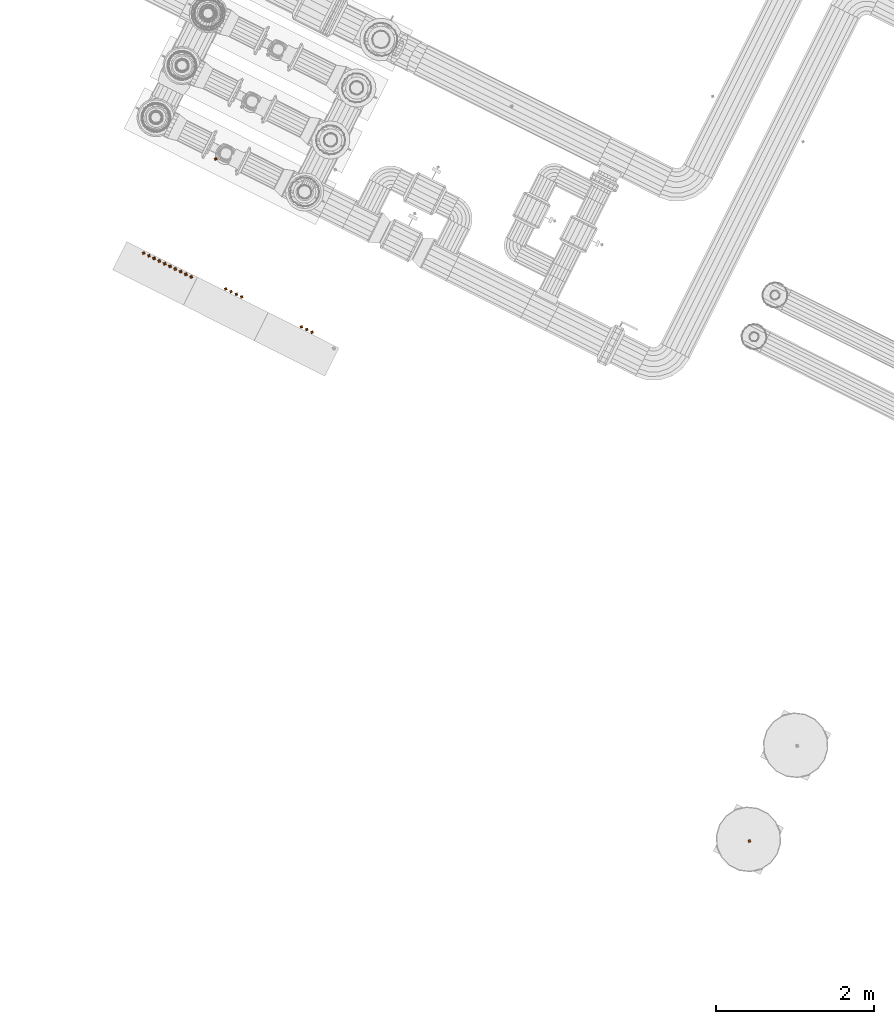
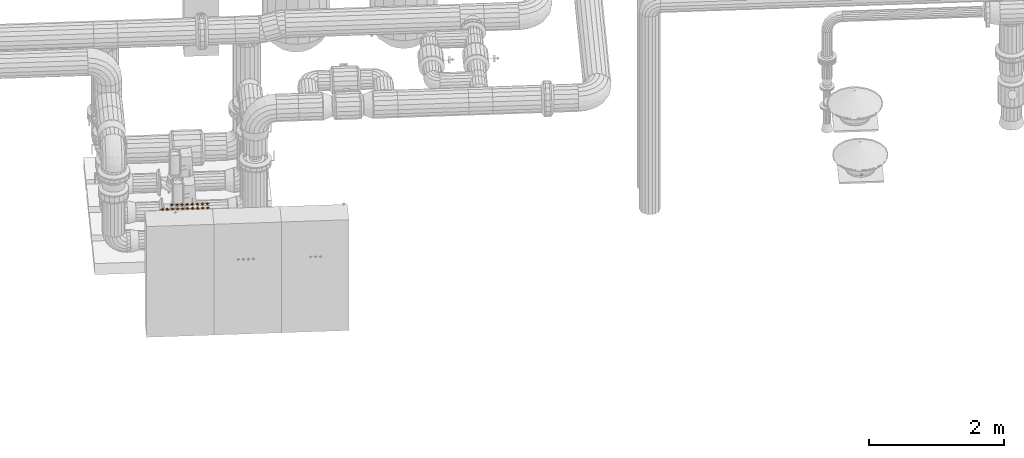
# One storey, part 147 of 152: 27 proxies.
"""IFC2X3 building model written with IfcOpenShell, lengths in metres."""

from ifc_helpers import new_model, si_unit, derived_unit, direction, frame, origin, place, context, subcontext, project, spatial, faceted_brep, type_object, element, save


model = new_model("IFC2X3")

# Units and contexts
model_context = context("Model", 3, precision=5.2338327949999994e-05, world=origin(), true_north=direction((0.0, 1.0)))
body_context = subcontext(model_context, "Body", "Model", "MODEL_VIEW")
ifc_project = project(units=[si_unit("LENGTHUNIT", "METRE"), si_unit("AREAUNIT", "SQUARE_METRE"), si_unit("VOLUMEUNIT", "CUBIC_METRE"), si_unit("MASSUNIT", "GRAM", prefix="KILO"), si_unit("PLANEANGLEUNIT", "RADIAN"), derived_unit("THERMALTRANSMITTANCEUNIT", [(si_unit("MASSUNIT", "GRAM", prefix="KILO"), 1), (si_unit("THERMODYNAMICTEMPERATUREUNIT", "KELVIN"), -1), (si_unit("TIMEUNIT", "SECOND"), -3)])], contexts=[model_context])

# Site, building, storey
site_placement = place(None, frame((0.0, 0.0, 0.0), z_axis=(0.0, 0.0, 1.0), x_axis=(0.8939966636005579, -0.4480736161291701, 0.0)))
site = spatial("IfcSite", under=ifc_project, at=site_placement, Name="Default", CompositionType="ELEMENT")
building_placement = place(site_placement, origin())
building = spatial("IfcBuilding", under=site, at=building_placement, CompositionType="ELEMENT")
storey_placement = place(building_placement, frame((0.0, 0.0, 2.7499999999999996)))
storey = spatial("IfcBuildingStorey", under=building, at=storey_placement, Name="1. Obergeschoss", CompositionType="ELEMENT", Elevation=2.7499999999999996)

# Proxies
building_element_proxy_type = type_object("IfcBuildingElementProxyType", Name="DirectShape:Gebäudeautomation", PredefinedType="NOTDEFINED")
proxy_1_placement = place(storey_placement, origin())
element("IfcBuildingElementProxy", 1, at=proxy_1_placement, inside=storey, type_object=building_element_proxy_type, Name="DirectShape:Wärmeversorgungsnetz Versorgungspumpe", context=body_context, shape_type="Brep", body=[
    faceted_brep([(10.532845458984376, 5.727348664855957, 1.1271258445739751), (10.507845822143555, 5.727348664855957, 1.152125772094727), (10.532845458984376, 5.752348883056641, 1.152125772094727), (10.532845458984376, 5.702348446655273, 1.152125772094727), (10.557845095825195, 5.727348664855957, 1.152125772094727), (10.532845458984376, 5.727348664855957, 1.177125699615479)], [[[0, 1, 2]], [[0, 3, 1]], [[0, 4, 3]], [[0, 2, 4]], [[5, 2, 1]], [[5, 1, 3]], [[5, 3, 4]], [[5, 4, 2]]]),
])
proxy_2_placement = place(storey_placement, origin())
element("IfcBuildingElementProxy", 2, at=proxy_2_placement, inside=storey, type_object=building_element_proxy_type, Name="DirectShape:Lüftung Maschinenhalle Abluftventilator 2", context=body_context, shape_type="Brep", body=[
    faceted_brep([(20.428336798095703, 1.0417341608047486, 4.680186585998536), (20.40333832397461, 1.0417341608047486, 4.705186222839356), (20.428336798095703, 1.0667341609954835, 4.705186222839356), (20.428336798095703, 1.0167341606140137, 4.705186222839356), (20.45333759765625, 1.0417341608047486, 4.705186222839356), (20.428336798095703, 1.0417341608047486, 4.73018644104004)], [[[0, 1, 2]], [[0, 3, 1]], [[0, 4, 3]], [[0, 2, 4]], [[5, 2, 1]], [[5, 1, 3]], [[5, 3, 4]], [[5, 4, 2]]]),
])
proxy_3_placement = place(storey_placement, origin())
element("IfcBuildingElementProxy", 3, at=proxy_3_placement, inside=storey, type_object=building_element_proxy_type, Name="DirectShape:Schaltschranktür Versorgungspumpe 1", context=body_context, shape_type="Brep", body=[
    faceted_brep([(12.452562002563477, 4.3145712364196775, 1.2328086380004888), (12.427562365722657, 4.3145712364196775, 1.2578088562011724), (12.452562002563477, 4.3395711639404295, 1.2578088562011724), (12.452562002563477, 4.289571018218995, 1.2578088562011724), (12.477562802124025, 4.3145712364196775, 1.2578088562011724), (12.452562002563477, 4.3145712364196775, 1.2828087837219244)], [[[0, 1, 2]], [[0, 3, 1]], [[0, 4, 3]], [[0, 2, 4]], [[5, 2, 1]], [[5, 1, 3]], [[5, 3, 4]], [[5, 4, 2]]]),
])
proxy_4_placement = place(storey_placement, origin())
element("IfcBuildingElementProxy", 4, at=proxy_4_placement, inside=storey, type_object=building_element_proxy_type, Name="DirectShape:Schaltschranktür Versorgungspumpe 2", context=body_context, shape_type="Brep", body=[
    faceted_brep([(12.527562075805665, 4.3145712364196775, 1.2328086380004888), (12.502562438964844, 4.3145712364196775, 1.2578088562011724), (12.527562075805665, 4.3395711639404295, 1.2578088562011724), (12.527562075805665, 4.289571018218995, 1.2578088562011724), (12.552561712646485, 4.3145712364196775, 1.2578088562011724), (12.527562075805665, 4.3145712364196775, 1.2828087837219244)], [[[0, 1, 2]], [[0, 3, 1]], [[0, 4, 3]], [[0, 2, 4]], [[5, 2, 1]], [[5, 1, 3]], [[5, 3, 4]], [[5, 4, 2]]]),
])
proxy_5_placement = place(storey_placement, origin())
element("IfcBuildingElementProxy", 5, at=proxy_5_placement, inside=storey, type_object=building_element_proxy_type, Name="DirectShape:Schaltschranktür Versorgungspumpe 3", context=body_context, shape_type="Brep", body=[
    faceted_brep([(12.602562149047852, 4.3145712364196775, 1.2328086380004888), (12.577562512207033, 4.3145712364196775, 1.2578088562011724), (12.602562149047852, 4.3395711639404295, 1.2578088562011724), (12.602562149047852, 4.289571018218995, 1.2578088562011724), (12.627561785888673, 4.3145712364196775, 1.2578088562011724), (12.602562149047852, 4.3145712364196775, 1.2828087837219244)], [[[0, 1, 2]], [[0, 3, 1]], [[0, 4, 3]], [[0, 2, 4]], [[5, 2, 1]], [[5, 1, 3]], [[5, 3, 4]], [[5, 4, 2]]]),
])
proxy_6_placement = place(storey_placement, origin())
element("IfcBuildingElementProxy", 6, at=proxy_6_placement, inside=storey, type_object=building_element_proxy_type, Name="DirectShape:Schaltschranktür Heizkessel 1", context=body_context, shape_type="Brep", body=[
    faceted_brep([(11.382326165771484, 4.3145712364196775, 1.2301105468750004), (11.357326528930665, 4.3145712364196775, 1.255110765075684), (11.382326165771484, 4.3395711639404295, 1.255110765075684), (11.382326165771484, 4.289571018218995, 1.255110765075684), (11.407325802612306, 4.3145712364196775, 1.255110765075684), (11.382326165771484, 4.3145712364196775, 1.280110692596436)], [[[0, 1, 2]], [[0, 3, 1]], [[0, 4, 3]], [[0, 2, 4]], [[5, 2, 1]], [[5, 1, 3]], [[5, 3, 4]], [[5, 4, 2]]]),
])
proxy_7_placement = place(storey_placement, origin())
element("IfcBuildingElementProxy", 7, at=proxy_7_placement, inside=storey, type_object=building_element_proxy_type, Name="DirectShape:Schaltschranktür Heizkessel 2", context=body_context, shape_type="Brep", body=[
    faceted_brep([(11.457326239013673, 4.3145712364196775, 1.2301105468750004), (11.432326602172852, 4.3145712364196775, 1.255110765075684), (11.457326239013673, 4.3395711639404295, 1.255110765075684), (11.457326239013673, 4.289571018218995, 1.255110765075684), (11.482325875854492, 4.3145712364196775, 1.255110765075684), (11.457326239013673, 4.3145712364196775, 1.280110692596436)], [[[0, 1, 2]], [[0, 3, 1]], [[0, 4, 3]], [[0, 2, 4]], [[5, 2, 1]], [[5, 1, 3]], [[5, 3, 4]], [[5, 4, 2]]]),
])
proxy_8_placement = place(storey_placement, origin())
element("IfcBuildingElementProxy", 8, at=proxy_8_placement, inside=storey, type_object=building_element_proxy_type, Name="DirectShape:Schaltschranktür Heizkessel 3", context=body_context, shape_type="Brep", body=[
    faceted_brep([(11.53232631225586, 4.3145712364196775, 1.2301105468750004), (11.50732667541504, 4.3145712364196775, 1.255110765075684), (11.53232631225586, 4.3395711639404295, 1.255110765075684), (11.53232631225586, 4.289571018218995, 1.255110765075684), (11.55732594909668, 4.3145712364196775, 1.255110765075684), (11.53232631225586, 4.3145712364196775, 1.280110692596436)], [[[0, 1, 2]], [[0, 3, 1]], [[0, 4, 3]], [[0, 2, 4]], [[5, 2, 1]], [[5, 1, 3]], [[5, 3, 4]], [[5, 4, 2]]]),
])
proxy_9_placement = place(storey_placement, origin())
element("IfcBuildingElementProxy", 9, at=proxy_9_placement, inside=storey, type_object=building_element_proxy_type, Name="DirectShape:Schaltschranktür BHKW", context=body_context, shape_type="Brep", body=[
    faceted_brep([(11.607326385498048, 4.3145712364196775, 1.2301105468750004), (11.582326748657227, 4.3145712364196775, 1.255110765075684), (11.607326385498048, 4.3395711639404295, 1.255110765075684), (11.607326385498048, 4.289571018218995, 1.255110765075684), (11.632326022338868, 4.3145712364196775, 1.255110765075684), (11.607326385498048, 4.3145712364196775, 1.280110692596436)], [[[0, 1, 2]], [[0, 3, 1]], [[0, 4, 3]], [[0, 2, 4]], [[5, 2, 1]], [[5, 1, 3]], [[5, 3, 4]], [[5, 4, 2]]]),
])
proxy_10_placement = place(storey_placement, origin())
element("IfcBuildingElementProxy", 10, at=proxy_10_placement, inside=storey, type_object=building_element_proxy_type, Name="DirectShape:Gebäudeautomation", context=body_context, shape_type="Brep", body=[
    faceted_brep([(10.396189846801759, 4.25438130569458, 2.2975471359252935), (10.371189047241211, 4.25438130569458, 2.3225467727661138), (10.396189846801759, 4.279381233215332, 2.3225467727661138), (10.396189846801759, 4.229381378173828, 2.3225467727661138), (10.421189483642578, 4.25438130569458, 2.3225467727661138), (10.396189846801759, 4.25438130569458, 2.3475469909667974)], [[[0, 1, 2]], [[0, 3, 1]], [[0, 4, 3]], [[0, 2, 4]], [[5, 2, 1]], [[5, 1, 3]], [[5, 3, 4]], [[5, 4, 2]]]),
])
proxy_11_placement = place(storey_placement, origin())
element("IfcBuildingElementProxy", 11, at=proxy_11_placement, inside=storey, type_object=building_element_proxy_type, Name="DirectShape:Gebäudeautomation", context=body_context, shape_type="Brep", body=[
    faceted_brep([(10.471189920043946, 4.25438130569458, 2.2975471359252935), (10.4461891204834, 4.25438130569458, 2.3225467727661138), (10.471189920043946, 4.279381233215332, 2.3225467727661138), (10.471189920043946, 4.229381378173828, 2.3225467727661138), (10.496189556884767, 4.25438130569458, 2.3225467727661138), (10.471189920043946, 4.25438130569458, 2.3475469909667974)], [[[0, 1, 2]], [[0, 3, 1]], [[0, 4, 3]], [[0, 2, 4]], [[5, 2, 1]], [[5, 1, 3]], [[5, 3, 4]], [[5, 4, 2]]]),
])
proxy_12_placement = place(storey_placement, origin())
element("IfcBuildingElementProxy", 12, at=proxy_12_placement, inside=storey, type_object=building_element_proxy_type, Name="DirectShape:Gebäudeautomation", context=body_context, shape_type="Brep", body=[
    faceted_brep([(10.546189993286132, 4.25438130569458, 2.2975471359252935), (10.521189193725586, 4.25438130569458, 2.3225467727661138), (10.546189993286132, 4.279381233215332, 2.3225467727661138), (10.546189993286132, 4.229381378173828, 2.3225467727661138), (10.571189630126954, 4.25438130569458, 2.3225467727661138), (10.546189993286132, 4.25438130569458, 2.3475469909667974)], [[[0, 1, 2]], [[0, 3, 1]], [[0, 4, 3]], [[0, 2, 4]], [[5, 2, 1]], [[5, 1, 3]], [[5, 3, 4]], [[5, 4, 2]]]),
])
proxy_13_placement = place(storey_placement, origin())
element("IfcBuildingElementProxy", 13, at=proxy_13_placement, inside=storey, type_object=building_element_proxy_type, Name="DirectShape:Gebäudeautomation", context=body_context, shape_type="Brep", body=[
    faceted_brep([(10.621190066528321, 4.25438130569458, 2.2975471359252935), (10.596189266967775, 4.25438130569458, 2.3225467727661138), (10.621190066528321, 4.279381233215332, 2.3225467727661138), (10.621190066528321, 4.229381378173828, 2.3225467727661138), (10.64618970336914, 4.25438130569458, 2.3225467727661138), (10.621190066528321, 4.25438130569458, 2.3475469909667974)], [[[0, 1, 2]], [[0, 3, 1]], [[0, 4, 3]], [[0, 2, 4]], [[5, 2, 1]], [[5, 1, 3]], [[5, 3, 4]], [[5, 4, 2]]]),
])
proxy_14_placement = place(storey_placement, origin())
element("IfcBuildingElementProxy", 14, at=proxy_14_placement, inside=storey, type_object=building_element_proxy_type, Name="DirectShape:Gebäudeautomation", context=body_context, shape_type="Brep", body=[
    faceted_brep([(10.696190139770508, 4.25438130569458, 2.2975471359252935), (10.671189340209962, 4.25438130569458, 2.3225467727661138), (10.696190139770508, 4.279381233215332, 2.3225467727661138), (10.696190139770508, 4.229381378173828, 2.3225467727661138), (10.721189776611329, 4.25438130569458, 2.3225467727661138), (10.696190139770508, 4.25438130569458, 2.3475469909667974)], [[[0, 1, 2]], [[0, 3, 1]], [[0, 4, 3]], [[0, 2, 4]], [[5, 2, 1]], [[5, 1, 3]], [[5, 3, 4]], [[5, 4, 2]]]),
])
proxy_15_placement = place(storey_placement, origin())
element("IfcBuildingElementProxy", 15, at=proxy_15_placement, inside=storey, type_object=building_element_proxy_type, Name="DirectShape:Gebäudeautomation", context=body_context, shape_type="Brep", body=[
    faceted_brep([(10.77118905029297, 4.25438130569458, 2.2975471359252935), (10.746189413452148, 4.25438130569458, 2.3225467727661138), (10.77118905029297, 4.279381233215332, 2.3225467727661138), (10.77118905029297, 4.229381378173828, 2.3225467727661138), (10.796189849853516, 4.25438130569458, 2.3225467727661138), (10.77118905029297, 4.25438130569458, 2.3475469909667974)], [[[0, 1, 2]], [[0, 3, 1]], [[0, 4, 3]], [[0, 2, 4]], [[5, 2, 1]], [[5, 1, 3]], [[5, 3, 4]], [[5, 4, 2]]]),
])
proxy_16_placement = place(storey_placement, origin())
element("IfcBuildingElementProxy", 16, at=proxy_16_placement, inside=storey, type_object=building_element_proxy_type, Name="DirectShape:Gebäudeautomation", context=body_context, shape_type="Brep", body=[
    faceted_brep([(10.846189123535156, 4.25438130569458, 2.2975471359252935), (10.821189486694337, 4.25438130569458, 2.3225467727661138), (10.846189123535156, 4.279381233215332, 2.3225467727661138), (10.846189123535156, 4.229381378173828, 2.3225467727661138), (10.871189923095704, 4.25438130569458, 2.3225467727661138), (10.846189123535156, 4.25438130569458, 2.3475469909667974)], [[[0, 1, 2]], [[0, 3, 1]], [[0, 4, 3]], [[0, 2, 4]], [[5, 2, 1]], [[5, 1, 3]], [[5, 3, 4]], [[5, 4, 2]]]),
])
proxy_17_placement = place(storey_placement, origin())
element("IfcBuildingElementProxy", 17, at=proxy_17_placement, inside=storey, type_object=building_element_proxy_type, Name="DirectShape:Gebäudeautomation", context=body_context, shape_type="Brep", body=[
    faceted_brep([(10.921189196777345, 4.25438130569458, 2.2975471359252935), (10.896189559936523, 4.25438130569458, 2.3225467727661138), (10.921189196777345, 4.279381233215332, 2.3225467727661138), (10.921189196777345, 4.229381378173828, 2.3225467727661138), (10.94618999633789, 4.25438130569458, 2.3225467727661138), (10.921189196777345, 4.25438130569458, 2.3475469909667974)], [[[0, 1, 2]], [[0, 3, 1]], [[0, 4, 3]], [[0, 2, 4]], [[5, 2, 1]], [[5, 1, 3]], [[5, 3, 4]], [[5, 4, 2]]]),
])
proxy_18_placement = place(storey_placement, origin())
element("IfcBuildingElementProxy", 18, at=proxy_18_placement, inside=storey, type_object=building_element_proxy_type, Name="DirectShape:Gebäudeautomation", context=body_context, shape_type="Brep", body=[
    faceted_brep([(10.25199515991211, 4.25438130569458, 2.222644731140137), (10.22699552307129, 4.25438130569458, 2.2476443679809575), (10.25199515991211, 4.279381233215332, 2.2476443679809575), (10.25199515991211, 4.229381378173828, 2.2476443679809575), (10.276995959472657, 4.25438130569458, 2.2476443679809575), (10.25199515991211, 4.25438130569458, 2.272644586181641)], [[[0, 1, 2]], [[0, 3, 1]], [[0, 4, 3]], [[0, 2, 4]], [[5, 2, 1]], [[5, 1, 3]], [[5, 3, 4]], [[5, 4, 2]]]),
])
proxy_19_placement = place(storey_placement, origin())
element("IfcBuildingElementProxy", 19, at=proxy_19_placement, inside=storey, type_object=building_element_proxy_type, Name="DirectShape:Gebäudeautomation", context=body_context, shape_type="Brep", body=[
    faceted_brep([(10.326995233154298, 4.25438130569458, 2.222644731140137), (10.301995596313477, 4.25438130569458, 2.2476443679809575), (10.326995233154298, 4.279381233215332, 2.2476443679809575), (10.326995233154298, 4.229381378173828, 2.2476443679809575), (10.351996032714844, 4.25438130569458, 2.2476443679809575), (10.326995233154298, 4.25438130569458, 2.272644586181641)], [[[0, 1, 2]], [[0, 3, 1]], [[0, 4, 3]], [[0, 2, 4]], [[5, 2, 1]], [[5, 1, 3]], [[5, 3, 4]], [[5, 4, 2]]]),
])
proxy_20_placement = place(storey_placement, origin())
element("IfcBuildingElementProxy", 20, at=proxy_20_placement, inside=storey, type_object=building_element_proxy_type, Name="DirectShape:Gebäudeautomation", context=body_context, shape_type="Brep", body=[
    faceted_brep([(10.401995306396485, 4.25438130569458, 2.222644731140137), (10.376995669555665, 4.25438130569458, 2.2476443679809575), (10.401995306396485, 4.279381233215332, 2.2476443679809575), (10.401995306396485, 4.229381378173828, 2.2476443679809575), (10.426994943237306, 4.25438130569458, 2.2476443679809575), (10.401995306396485, 4.25438130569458, 2.272644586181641)], [[[0, 1, 2]], [[0, 3, 1]], [[0, 4, 3]], [[0, 2, 4]], [[5, 2, 1]], [[5, 1, 3]], [[5, 3, 4]], [[5, 4, 2]]]),
])
proxy_21_placement = place(storey_placement, origin())
element("IfcBuildingElementProxy", 21, at=proxy_21_placement, inside=storey, type_object=building_element_proxy_type, Name="DirectShape:Gebäudeautomation", context=body_context, shape_type="Brep", body=[
    faceted_brep([(10.476995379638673, 4.25438130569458, 2.222644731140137), (10.451995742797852, 4.25438130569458, 2.2476443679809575), (10.476995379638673, 4.279381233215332, 2.2476443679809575), (10.476995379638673, 4.229381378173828, 2.2476443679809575), (10.501995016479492, 4.25438130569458, 2.2476443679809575), (10.476995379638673, 4.25438130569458, 2.272644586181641)], [[[0, 1, 2]], [[0, 3, 1]], [[0, 4, 3]], [[0, 2, 4]], [[5, 2, 1]], [[5, 1, 3]], [[5, 3, 4]], [[5, 4, 2]]]),
])
proxy_22_placement = place(storey_placement, origin())
element("IfcBuildingElementProxy", 22, at=proxy_22_placement, inside=storey, type_object=building_element_proxy_type, Name="DirectShape:Gebäudeautomation", context=body_context, shape_type="Brep", body=[
    faceted_brep([(10.55199545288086, 4.25438130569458, 2.222644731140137), (10.52699581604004, 4.25438130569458, 2.2476443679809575), (10.55199545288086, 4.279381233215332, 2.2476443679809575), (10.55199545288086, 4.229381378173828, 2.2476443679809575), (10.576995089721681, 4.25438130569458, 2.2476443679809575), (10.55199545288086, 4.25438130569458, 2.272644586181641)], [[[0, 1, 2]], [[0, 3, 1]], [[0, 4, 3]], [[0, 2, 4]], [[5, 2, 1]], [[5, 1, 3]], [[5, 3, 4]], [[5, 4, 2]]]),
])
proxy_23_placement = place(storey_placement, origin())
element("IfcBuildingElementProxy", 23, at=proxy_23_placement, inside=storey, type_object=building_element_proxy_type, Name="DirectShape:Gebäudeautomation", context=body_context, shape_type="Brep", body=[
    faceted_brep([(10.626995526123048, 4.25438130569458, 2.222644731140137), (10.601995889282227, 4.25438130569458, 2.2476443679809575), (10.626995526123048, 4.279381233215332, 2.2476443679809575), (10.626995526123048, 4.229381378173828, 2.2476443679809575), (10.651995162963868, 4.25438130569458, 2.2476443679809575), (10.626995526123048, 4.25438130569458, 2.272644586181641)], [[[0, 1, 2]], [[0, 3, 1]], [[0, 4, 3]], [[0, 2, 4]], [[5, 2, 1]], [[5, 1, 3]], [[5, 3, 4]], [[5, 4, 2]]]),
])
proxy_24_placement = place(storey_placement, origin())
element("IfcBuildingElementProxy", 24, at=proxy_24_placement, inside=storey, type_object=building_element_proxy_type, Name="DirectShape:Gebäudeautomation", context=body_context, shape_type="Brep", body=[
    faceted_brep([(10.701995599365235, 4.25438130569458, 2.222644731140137), (10.676995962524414, 4.25438130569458, 2.2476443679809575), (10.701995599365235, 4.279381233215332, 2.2476443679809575), (10.701995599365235, 4.229381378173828, 2.2476443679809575), (10.726995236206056, 4.25438130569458, 2.2476443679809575), (10.701995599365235, 4.25438130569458, 2.272644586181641)], [[[0, 1, 2]], [[0, 3, 1]], [[0, 4, 3]], [[0, 2, 4]], [[5, 2, 1]], [[5, 1, 3]], [[5, 3, 4]], [[5, 4, 2]]]),
])
proxy_25_placement = place(storey_placement, origin())
element("IfcBuildingElementProxy", 25, at=proxy_25_placement, inside=storey, type_object=building_element_proxy_type, Name="DirectShape:Gebäudeautomation", context=body_context, shape_type="Brep", body=[
    faceted_brep([(10.776995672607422, 4.25438130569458, 2.222644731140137), (10.751996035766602, 4.25438130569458, 2.2476443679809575), (10.776995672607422, 4.279381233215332, 2.2476443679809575), (10.776995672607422, 4.229381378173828, 2.2476443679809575), (10.801995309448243, 4.25438130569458, 2.2476443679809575), (10.776995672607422, 4.25438130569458, 2.272644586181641)], [[[0, 1, 2]], [[0, 3, 1]], [[0, 4, 3]], [[0, 2, 4]], [[5, 2, 1]], [[5, 1, 3]], [[5, 3, 4]], [[5, 4, 2]]]),
])
proxy_26_placement = place(storey_placement, origin())
element("IfcBuildingElementProxy", 26, at=proxy_26_placement, inside=storey, type_object=building_element_proxy_type, Name="DirectShape:Gebäudeautomation", context=body_context, shape_type="Brep", body=[
    faceted_brep([(10.85199574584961, 4.25438130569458, 2.222644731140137), (10.826994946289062, 4.25438130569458, 2.2476443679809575), (10.85199574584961, 4.279381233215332, 2.2476443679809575), (10.85199574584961, 4.229381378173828, 2.2476443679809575), (10.87699538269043, 4.25438130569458, 2.2476443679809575), (10.85199574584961, 4.25438130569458, 2.272644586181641)], [[[0, 1, 2]], [[0, 3, 1]], [[0, 4, 3]], [[0, 2, 4]], [[5, 2, 1]], [[5, 1, 3]], [[5, 3, 4]], [[5, 4, 2]]]),
])
proxy_27_placement = place(storey_placement, origin())
element("IfcBuildingElementProxy", 27, at=proxy_27_placement, inside=storey, type_object=building_element_proxy_type, Name="DirectShape:Gebäudeautomation", context=body_context, shape_type="Brep", body=[
    faceted_brep([(10.926995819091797, 4.25438130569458, 2.222644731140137), (10.90199501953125, 4.25438130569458, 2.2476443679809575), (10.926995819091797, 4.279381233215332, 2.2476443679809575), (10.926995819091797, 4.229381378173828, 2.2476443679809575), (10.951995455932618, 4.25438130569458, 2.2476443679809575), (10.926995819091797, 4.25438130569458, 2.272644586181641)], [[[0, 1, 2]], [[0, 3, 1]], [[0, 4, 3]], [[0, 2, 4]], [[5, 2, 1]], [[5, 1, 3]], [[5, 3, 4]], [[5, 4, 2]]]),
])

save(model, "model.ifc")
